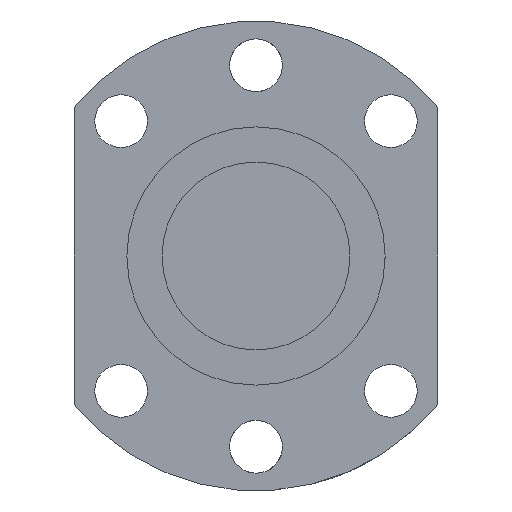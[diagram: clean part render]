
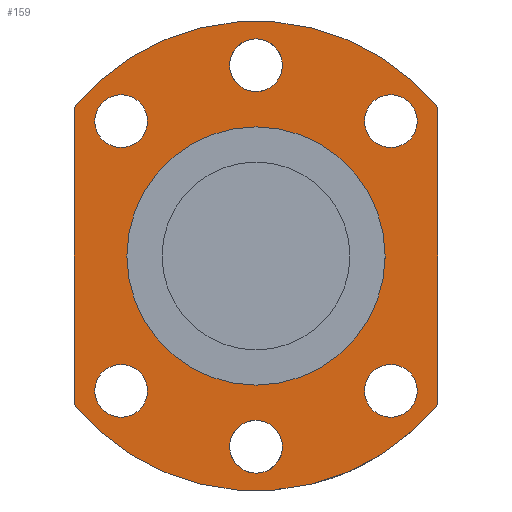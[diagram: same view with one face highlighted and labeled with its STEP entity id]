
A CAD part, front view. The second image highlights one B-rep face of the part: STEP entity #159.
In plain terms, the highlighted planar face has unit normal (0, -1, 0).
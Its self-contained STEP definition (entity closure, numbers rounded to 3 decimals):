
#112=LINE('',#866,#122);
#116=LINE('',#937,#126);
#122=VECTOR('',#667,1.);
#126=VECTOR('',#679,1.);
#159=ADVANCED_FACE('',(#214,#215,#216,#217,#218,#219,#220,#221),#190,.F.);
#190=PLANE('',#603);
#214=FACE_BOUND('',#285,.T.);
#215=FACE_BOUND('',#286,.T.);
#216=FACE_BOUND('',#287,.T.);
#217=FACE_BOUND('',#288,.T.);
#218=FACE_BOUND('',#289,.T.);
#219=FACE_BOUND('',#290,.T.);
#220=FACE_BOUND('',#291,.T.);
#221=FACE_BOUND('',#292,.T.);
#285=EDGE_LOOP('',(#375));
#286=EDGE_LOOP('',(#376));
#287=EDGE_LOOP('',(#377));
#288=EDGE_LOOP('',(#378));
#289=EDGE_LOOP('',(#379));
#290=EDGE_LOOP('',(#380));
#291=EDGE_LOOP('',(#381));
#292=EDGE_LOOP('',(#382,#383,#384,#385));
#375=ORIENTED_EDGE('',*,*,#511,.F.);
#376=ORIENTED_EDGE('',*,*,#512,.F.);
#377=ORIENTED_EDGE('',*,*,#513,.F.);
#378=ORIENTED_EDGE('',*,*,#514,.T.);
#379=ORIENTED_EDGE('',*,*,#515,.T.);
#380=ORIENTED_EDGE('',*,*,#516,.T.);
#381=ORIENTED_EDGE('',*,*,#517,.T.);
#382=ORIENTED_EDGE('',*,*,#491,.F.);
#383=ORIENTED_EDGE('',*,*,#502,.F.);
#384=ORIENTED_EDGE('',*,*,#499,.F.);
#385=ORIENTED_EDGE('',*,*,#495,.F.);
#447=VERTEX_POINT('',#858);
#448=VERTEX_POINT('',#859);
#451=VERTEX_POINT('',#867);
#454=VERTEX_POINT('',#932);
#463=VERTEX_POINT('',#956);
#464=VERTEX_POINT('',#958);
#465=VERTEX_POINT('',#960);
#466=VERTEX_POINT('',#962);
#467=VERTEX_POINT('',#964);
#468=VERTEX_POINT('',#966);
#469=VERTEX_POINT('',#968);
#491=EDGE_CURVE('',#447,#448,#540,.T.);
#495=EDGE_CURVE('',#448,#451,#112,.T.);
#499=EDGE_CURVE('',#451,#454,#542,.T.);
#502=EDGE_CURVE('',#454,#447,#116,.T.);
#511=EDGE_CURVE('',#463,#463,#551,.T.);
#512=EDGE_CURVE('',#464,#464,#552,.T.);
#513=EDGE_CURVE('',#465,#465,#553,.T.);
#514=EDGE_CURVE('',#466,#466,#554,.T.);
#515=EDGE_CURVE('',#467,#467,#555,.T.);
#516=EDGE_CURVE('',#468,#468,#556,.T.);
#517=EDGE_CURVE('',#469,#469,#557,.T.);
#540=CIRCLE('',#580,40.);
#542=CIRCLE('',#584,40.);
#551=CIRCLE('',#596,4.5);
#552=CIRCLE('',#597,4.5);
#553=CIRCLE('',#598,4.5);
#554=CIRCLE('',#599,4.5);
#555=CIRCLE('',#600,4.5);
#556=CIRCLE('',#601,4.5);
#557=CIRCLE('',#602,22.);
#580=AXIS2_PLACEMENT_3D('',#857,#659,#660);
#584=AXIS2_PLACEMENT_3D('',#931,#672,#673);
#596=AXIS2_PLACEMENT_3D('',#955,#699,#700);
#597=AXIS2_PLACEMENT_3D('',#957,#701,#702);
#598=AXIS2_PLACEMENT_3D('',#959,#703,#704);
#599=AXIS2_PLACEMENT_3D('',#961,#705,#706);
#600=AXIS2_PLACEMENT_3D('',#963,#707,#708);
#601=AXIS2_PLACEMENT_3D('',#965,#709,#710);
#602=AXIS2_PLACEMENT_3D('',#967,#711,#712);
#603=AXIS2_PLACEMENT_3D('',#969,#713,#714);
#659=DIRECTION('',(0.,1.,0.));
#660=DIRECTION('',(1.,0.,0.));
#667=DIRECTION('',(0.,0.,-1.));
#672=DIRECTION('',(0.,1.,0.));
#673=DIRECTION('',(1.,0.,0.));
#679=DIRECTION('',(0.,0.,1.));
#699=DIRECTION('',(0.,-1.,0.));
#700=DIRECTION('',(-1.,0.,0.));
#701=DIRECTION('',(0.,-1.,0.));
#702=DIRECTION('',(-0.707,0.,-0.707));
#703=DIRECTION('',(0.,-1.,0.));
#704=DIRECTION('',(0.,0.,-1.));
#705=DIRECTION('',(0.,1.,0.));
#706=DIRECTION('',(-1.,0.,0.));
#707=DIRECTION('',(0.,1.,0.));
#708=DIRECTION('',(-0.707,0.,0.707));
#709=DIRECTION('',(0.,1.,0.));
#710=DIRECTION('',(0.,0.,1.));
#711=DIRECTION('',(0.,1.,0.));
#712=DIRECTION('',(0.,0.,1.));
#713=DIRECTION('',(0.,1.,0.));
#714=DIRECTION('',(0.,0.,-1.));
#857=CARTESIAN_POINT('',(0.,-42.5,0.));
#858=CARTESIAN_POINT('',(-31.,-42.5,25.278));
#859=CARTESIAN_POINT('',(31.,-42.5,25.278));
#866=CARTESIAN_POINT('',(31.,-42.5,25.278));
#867=CARTESIAN_POINT('',(31.,-42.5,-25.278));
#931=CARTESIAN_POINT('',(0.,-42.5,0.));
#932=CARTESIAN_POINT('',(-31.,-42.5,-25.278));
#937=CARTESIAN_POINT('',(-31.,-42.5,-25.278));
#955=CARTESIAN_POINT('',(22.981,-42.5,22.981));
#956=CARTESIAN_POINT('',(18.481,-42.5,22.981));
#957=CARTESIAN_POINT('',(0.,-42.5,32.5));
#958=CARTESIAN_POINT('',(-3.182,-42.5,29.318));
#959=CARTESIAN_POINT('',(-22.981,-42.5,22.981));
#960=CARTESIAN_POINT('',(-22.981,-42.5,18.481));
#961=CARTESIAN_POINT('',(22.981,-42.5,-22.981));
#962=CARTESIAN_POINT('',(18.481,-42.5,-22.981));
#963=CARTESIAN_POINT('',(0.,-42.5,-32.5));
#964=CARTESIAN_POINT('',(-3.182,-42.5,-29.318));
#965=CARTESIAN_POINT('',(-22.981,-42.5,-22.981));
#966=CARTESIAN_POINT('',(-22.981,-42.5,-18.481));
#967=CARTESIAN_POINT('',(0.,-42.5,0.));
#968=CARTESIAN_POINT('',(0.,-42.5,22.));
#969=CARTESIAN_POINT('',(0.,-42.5,0.));
